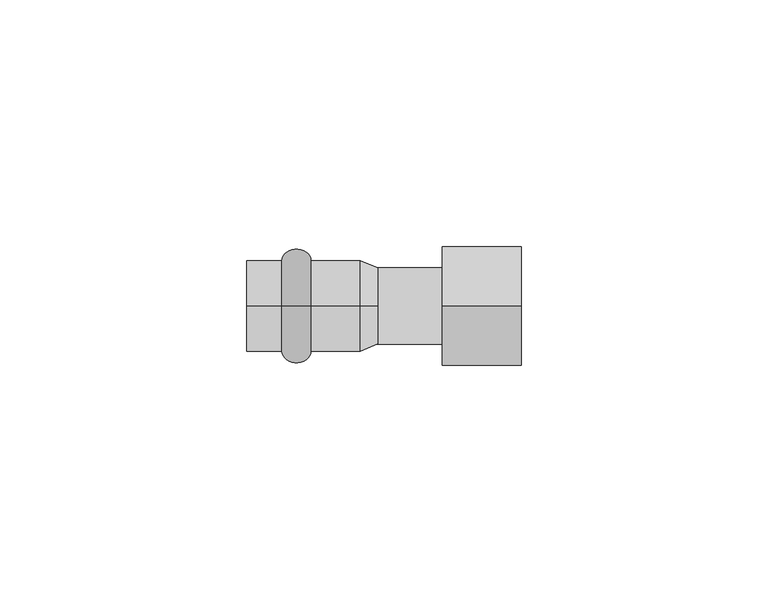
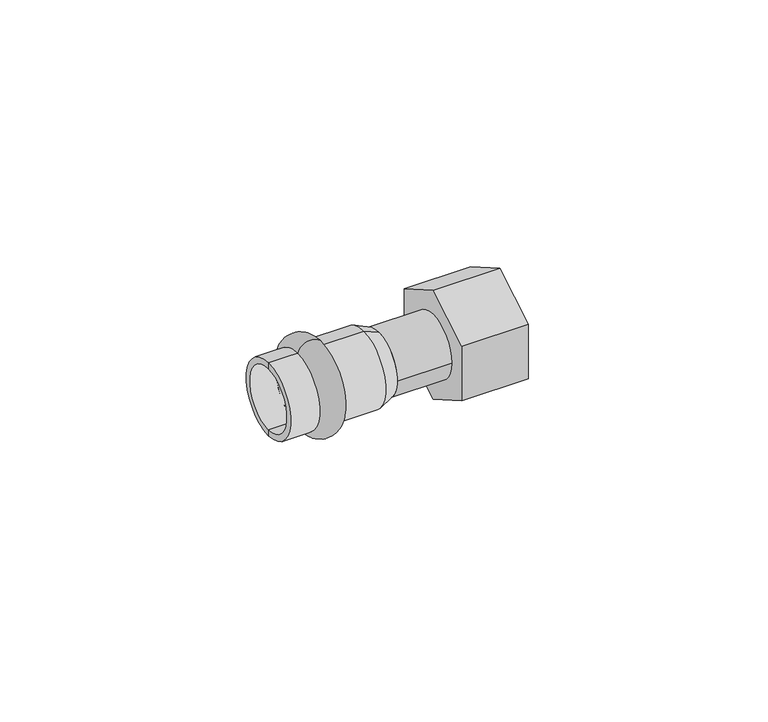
"""IFC4 building model written with IfcOpenShell, lengths in millimetres: pipe fitting geometry, РЕХАУ_Пресс Муфта с накидной гайкой : ЗАГРУЗИТЕ ТИПОРАЗМЕРЫ ЧЕРЕЗ ВКЛАДКУ «ВСТАВИТЬ» → ЗАГРУЗИТЬ СЕМЕЙСТВО."""

from ifc_helpers import new_model, si_unit, point, frame, origin, origin_2d, place, context, project, spatial, polyline, circle_curve, ellipse_curve, trimmed, segment, composite_curve, outline, extrude, source, transform, mapped, element, save
from ifc_brep_helpers import plane_surface, cylinder_surface, revolved_surface, advanced_brep


def pipe_fitting_bba7c7e7(model_context):
    return source(origin(), model_context, "Body", "SolidModel", [
        advanced_brep(
        [(-15.9, 0.0, 9.25), (-15.9, 0.0, -9.25), (-10.0, 0.0, -9.25), (-10.0, 0.0, 9.25)],
        [
            (0, 1, circle_curve(frame((-15.9, 0.0, 0.0), z_axis=(-1.0, 0.0, 0.0), x_axis=(0.0, 0.0, -1.0)), 9.25)),
            (1, 2),
            (2, 3, circle_curve(frame((-10.0, 0.0, 0.0), z_axis=(1.0, 0.0, 0.0), x_axis=(0.0, 0.0, -1.0)), 9.25)),
            (3, 0),
            (1, 0, circle_curve(frame((-15.9, 0.0, 0.0), z_axis=(-1.0, 0.0, 0.0), x_axis=(0.0, 0.0, -1.0)), 9.25)),
            (3, 2, circle_curve(frame((-10.0, 0.0, 0.0), z_axis=(1.0, 0.0, 0.0), x_axis=(0.0, 0.0, -1.0)), 9.25)),
            (2, 1, ellipse_curve(frame((-12.95, 0.0, -9.25), z_axis=(0.0, 1.0, 0.0), x_axis=(-1.0, 0.0, 0.0)), 2.95, 2.3)),
            (0, 3, ellipse_curve(frame((-12.95, 0.0, 9.25), z_axis=(0.0, 1.0, 0.0), x_axis=(-1.0, 0.0, 0.0)), 2.95, 2.3)),
        ],
        [
            revolved_surface(polyline([(-10.0, 0.0, -9.25), (-15.899999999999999, 0.0, -9.25)]), (3.0, 0.0, 0.0), (1.0, 0.0, 0.0)),
            revolved_surface(trimmed(ellipse_curve(frame((-12.95, 0.0, -9.25), z_axis=(0.0, -1.0, 0.0), x_axis=(-1.0, 0.0, 0.0)), 2.95, 2.3), [point((-15.9, 0.0, -9.25))], [point((-10.0, 0.0, -9.25))], True, "CARTESIAN"), (3.0, 0.0, 0.0), (1.0, 0.0, 0.0)),
        ],
        [
            (0, [[1, 2, 3, 4]]),
            (0, [[5, -4, 6, -2]]),
            (1, [[-3, 7, -1, 8]]),
            (1, [[-6, -8, -5, -7]]),
        ],
    ),
        advanced_brep(
        [(3.5337785, 0.0, 7.75), (3.5337785, 0.0, -7.75), (0.0, 0.0, -9.25), (0.0, 0.0, 9.25), (-23.0, 0.0, 7.75), (-23.0, 0.0, -7.75), (-23.0, 0.0, 9.25), (-23.0, 0.0, -9.25)],
        [
            (0, 1, circle_curve(frame((3.5337785, 0.0, 0.0), z_axis=(-1.0, 0.0, 0.0), x_axis=(0.0, 0.0, -1.0)), 7.75)),
            (1, 2),
            (2, 3, circle_curve(frame((0.0, 0.0, 0.0), z_axis=(1.0, 0.0, 0.0), x_axis=(0.0, 0.0, -1.0)), 9.25)),
            (3, 0),
            (1, 0, circle_curve(frame((3.5337785, 0.0, 0.0), z_axis=(-1.0, 0.0, 0.0), x_axis=(0.0, 0.0, -1.0)), 7.75)),
            (3, 2, circle_curve(frame((0.0, 0.0, 0.0), z_axis=(1.0, 0.0, 0.0), x_axis=(0.0, 0.0, -1.0)), 9.25)),
            (4, 5, circle_curve(frame((-23.0, 0.0, 0.0), z_axis=(-1.0, 0.0, 0.0), x_axis=(0.0, 0.0, -1.0)), 7.75)),
            (5, 1),
            (0, 4),
            (5, 4, circle_curve(frame((-23.0, 0.0, 0.0), z_axis=(-1.0, 0.0, 0.0), x_axis=(0.0, 0.0, -1.0)), 7.75)),
            (6, 7, circle_curve(frame((-23.0, 0.0, 0.0), z_axis=(-1.0, 0.0, 0.0), x_axis=(0.0, 0.0, -1.0)), 9.25)),
            (7, 5),
            (4, 6),
            (7, 6, circle_curve(frame((-23.0, 0.0, 0.0), z_axis=(-1.0, 0.0, 0.0), x_axis=(0.0, 0.0, -1.0)), 9.25)),
            (2, 7),
            (6, 3),
        ],
        [
            revolved_surface(polyline([(0.0, 0.0, -9.25), (3.5337785, 0.0, -7.75)]), (3.0, 0.0, 0.0), (1.0, 0.0, 0.0)),
            revolved_surface(polyline([(3.5337785, 0.0, -7.75), (-23.0, 0.0, -7.75)]), (3.0, 0.0, 0.0), (1.0, 0.0, 0.0)),
            plane_surface(frame((-23.0, 0.0, 0.0), z_axis=(-1.0, 0.0, 0.0), x_axis=(0.0, 0.0, -1.0))),
            cylinder_surface(frame((3.0, 0.0, 0.0), z_axis=(1.0, 0.0, 0.0), x_axis=(0.0, 0.0, -1.0)), 9.25),
        ],
        [
            (0, [[1, 2, 3, 4]]),
            (0, [[5, -4, 6, -2]]),
            (1, [[7, 8, -1, 9]]),
            (1, [[10, -9, -5, -8]]),
            (2, [[11, 12, -7, 13]]),
            (2, [[14, -13, -10, -12]]),
            (3, [[-3, 15, -11, 16]]),
            (3, [[-6, -16, -14, -15]]),
        ],
    ),
        extrude(outline(composite_curve([segment(trimmed(circle_curve(origin_2d(), 7.75), [point((-7.75, 0.0))], [point((7.75, 0.0))], False, "CARTESIAN"), True, "CONTINUOUS"), segment(trimmed(circle_curve(origin_2d(), 7.75), [point((7.75, 0.0))], [point((-7.75, 0.0))], False, "CARTESIAN"), True, "CONTINUOUS")], self_intersect=False)), frame((3.5337785, 0.0, 0.0), z_axis=(1.0, 0.0, 0.0), x_axis=(0.0, 1.0, 0.0)), (0.0, 0.0, 1.0), 13.1),
        advanced_brep(
        [(16.6337785, 0.0, -2.3094011), (16.6337785, -2.0, -1.1547005), (20.6337785, -2.0, -1.1547005), (20.6337785, 0.0, -2.3094011), (32.6337785, -12.0, -6.9282032), (16.6337785, -12.0, -6.9282032), (16.6337785, 0.0, -13.8564065), (32.6337785, 0.0, -13.8564065), (16.6337785, 2.0, -1.1547005), (20.6337785, 2.0, -1.1547005), (16.6337785, 12.0, -6.9282032), (32.6337785, 12.0, -6.9282032), (16.6337785, 0.0, 2.3094011), (16.6337785, 2.0, 1.1547005), (20.6337785, 2.0, 1.1547005), (20.6337785, 0.0, 2.3094011), (32.6337785, 12.0, 6.9282032), (16.6337785, 12.0, 6.9282032), (16.6337785, 0.0, 13.8564065), (32.6337785, 0.0, 13.8564065), (16.6337785, -2.0, 1.1547005), (20.6337785, -2.0, 1.1547005), (16.6337785, -12.0, 6.9282032), (32.6337785, -12.0, 6.9282032), (32.6337785, -10.75, 0.0), (32.6337785, 10.75, 0.0), (20.6337785, -10.75, 0.0), (20.6337785, 10.75, 0.0)],
        [
            (0, 1),
            (1, 2),
            (2, 3),
            (3, 0),
            (4, 5),
            (5, 6),
            (6, 7),
            (7, 4),
            (8, 0),
            (3, 9),
            (9, 8),
            (6, 10),
            (10, 11),
            (11, 7),
            (12, 13),
            (13, 14),
            (14, 15),
            (15, 12),
            (16, 17),
            (17, 18),
            (18, 19),
            (19, 16),
            (20, 12),
            (15, 21),
            (21, 20),
            (18, 22),
            (22, 23),
            (23, 19),
            (13, 8),
            (9, 14),
            (10, 17),
            (16, 11),
            (23, 4),
            (24, 25, circle_curve(frame((32.6337785, 0.0, 0.0), z_axis=(-1.0, 0.0, 0.0), x_axis=(0.0, 1.0, 0.0)), 10.75)),
            (25, 24, circle_curve(frame((32.6337785, 0.0, 0.0), z_axis=(-1.0, 0.0, 0.0), x_axis=(0.0, 1.0, 0.0)), 10.75)),
            (1, 20),
            (21, 2),
            (5, 22),
            (26, 27, circle_curve(frame((20.6337785, 0.0, 0.0), z_axis=(1.0, 0.0, 0.0), x_axis=(0.0, 1.0, 0.0)), 10.75)),
            (27, 26, circle_curve(frame((20.6337785, 0.0, 0.0), z_axis=(1.0, 0.0, 0.0), x_axis=(0.0, 1.0, 0.0)), 10.75)),
            (27, 25),
            (24, 26),
        ],
        [
            plane_surface(frame((32.6337785, -2.0, -1.1547005), z_axis=(0.0, 0.5000000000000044, 0.8660254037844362), x_axis=(0.0, 0.8660254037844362, -0.5000000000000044))),
            plane_surface(frame((16.6337785, -12.0, -6.9282032), z_axis=(0.0, -0.5000000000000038, -0.8660254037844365), x_axis=(0.0, 0.8660254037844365, -0.5000000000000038))),
            plane_surface(frame((32.6337785, 0.0, -2.3094011), z_axis=(0.0, -0.49999999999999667, 0.8660254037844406), x_axis=(0.0, 0.8660254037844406, 0.49999999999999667))),
            plane_surface(frame((16.6337785, 0.0, -13.8564065), z_axis=(0.0, 0.4999999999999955, -0.8660254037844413), x_axis=(0.0, 0.8660254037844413, 0.4999999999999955))),
            plane_surface(frame((32.6337785, 2.0, 1.1547005), z_axis=(0.0, -0.5000000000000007, -0.8660254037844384), x_axis=(0.0, -0.8660254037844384, 0.5000000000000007))),
            plane_surface(frame((16.6337785, 12.0, 6.9282032), z_axis=(0.0, 0.5000000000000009, 0.8660254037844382), x_axis=(0.0, -0.8660254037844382, 0.5000000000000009))),
            plane_surface(frame((32.6337785, 0.0, 2.3094011), z_axis=(0.0, 0.499999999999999, -0.8660254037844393), x_axis=(0.0, -0.8660254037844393, -0.499999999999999))),
            plane_surface(frame((16.6337785, 0.0, 13.8564065), z_axis=(0.0, -0.4999999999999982, 0.8660254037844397), x_axis=(0.0, -0.8660254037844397, -0.4999999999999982))),
            plane_surface(frame((32.6337785, 2.0, -1.1547005), z_axis=(0.0, -1.0, 0.0), x_axis=(0.0, 0.0, 1.0))),
            plane_surface(frame((16.6337785, 12.0, -6.9282032), z_axis=(0.0, 1.0, 0.0), x_axis=(0.0, 0.0, 1.0))),
            plane_surface(frame((32.6337785, -12.0, 6.9282032), z_axis=(1.0, 0.0, 0.0), x_axis=(0.0, 0.0, -1.0))),
            plane_surface(frame((32.6337785, -2.0, 1.1547005), z_axis=(0.0, 1.0, 0.0), x_axis=(0.0, 0.0, -1.0))),
            plane_surface(frame((16.6337785, -2.0, 1.1547005), z_axis=(-1.0, 0.0, 0.0), x_axis=(0.0, 0.0, -1.0))),
            plane_surface(frame((16.6337785, -12.0, 6.9282032), z_axis=(0.0, -1.0, 0.0), x_axis=(0.0, 0.0, -1.0))),
            plane_surface(frame((20.6337785, 10.75, 0.0), z_axis=(1.0, 0.0, 0.0), x_axis=(0.0, 0.0, -1.0))),
            revolved_surface(polyline([(32.6337785, 10.75, 0.0), (20.6337785, 10.75, 0.0)]), (20.6337785, 0.0, 0.0), (1.0, 0.0, 0.0)),
        ],
        [
            (0, [[1, 2, 3, 4]]),
            (1, [[5, 6, 7, 8]]),
            (2, [[9, -4, 10, 11]]),
            (3, [[-7, 12, 13, 14]]),
            (4, [[15, 16, 17, 18]]),
            (5, [[19, 20, 21, 22]]),
            (6, [[23, -18, 24, 25]]),
            (7, [[-21, 26, 27, 28]]),
            (8, [[29, -11, 30, -16]]),
            (9, [[-13, 31, -19, 32]]),
            (10, [[-8, -14, -32, -22, -28, 33], [34, 35]]),
            (11, [[36, -25, 37, -2]]),
            (12, [[-6, 38, -26, -20, -31, -12], [-1, -9, -29, -15, -23, -36]]),
            (13, [[-5, -33, -27, -38]]),
            (14, [[39, 40], [-3, -37, -24, -17, -30, -10]]),
            (15, [[-40, 41, -34, 42]]),
            (15, [[-39, -42, -35, -41]]),
        ],
    ),
    ])


if __name__ == "__main__":
    model = new_model("IFC4")
    model_context = context("Model", 3, world=origin())
    ifc_project = project(units=[si_unit("LENGTHUNIT", "METRE", prefix="MILLI")], contexts=[model_context])
    site = spatial("IfcSite", under=ifc_project)
    building = spatial("IfcBuilding", under=site)
    placement = place(None, origin())
    pipe_fitting_shape = pipe_fitting_bba7c7e7(model_context)
    element("IfcPipeFitting", 1, ObjectType="РЕХАУ_Пресс Муфта с накидной гайкой : ЗАГРУЗИТЕ ТИПОРАЗМЕРЫ ЧЕРЕЗ ВКЛАДКУ «ВСТАВИТЬ» → ЗАГРУЗИТЬ СЕМЕЙСТВО", at=placement, inside=building, context=model_context, shape_type="MappedRepresentation", body=[
        mapped(pipe_fitting_shape, transform((0.0, 0.0, 0.0), x_axis=(1.0, 0.0, 0.0), y_axis=(0.0, 1.0, 0.0), z_axis=(0.0, 0.0, 1.0))),
    ])
    save(model, "model.ifc")
